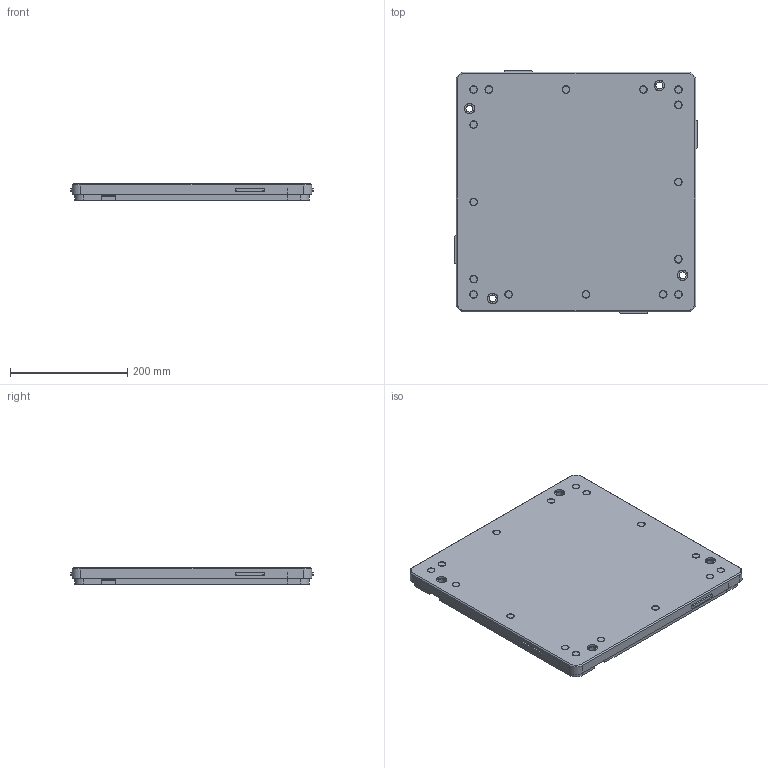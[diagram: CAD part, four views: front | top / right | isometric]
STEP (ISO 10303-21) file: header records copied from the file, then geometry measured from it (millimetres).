
FILE_DESCRIPTION(/* description */ (''),/* implementation_level */ '2;1');
FILE_NAME(/* name */ 'C:\Marketing\01_Versamove-SPU_STEP-Dateien-Homepage\VersamoveStandard\B400\STEP-Dateien\Werkstückträger_WT4045_400x400.stp',/* time_stamp */ '2016-12-21T08:37:49+01:00',/* author */ ('herbert.engels'),/* organization */ (''),/* preprocessor_version */ 'ST-DEVELOPER v15.6',/* originating_system */ 'Autodesk Inventor 2015',/* authorisation */ '');
FILE_SCHEMA (('CONFIG_CONTROL_DESIGN'));
Length unit declared in the file: millimetre
Products named in the file (1): Werkstückträger_WT4045_400x400
Bounding box: 414 x 414 x 28 mm (x, y, z)
Volume: 2359057.6 mm3; surface area: 495678.9 mm2
Topology: 1 solids, 1 shells, 394 faces, 988 edges, 644 vertices
Faces by surface type: plane 234, cylinder 116, cone 40, torus 4
Full cylindrical faces by diameter (mm): 4.5 x4, 6 x16, 8 x16, 9 x4, 12 x20, 18 x4, 22 x4, 23 x4, 27 x4, 28 x4
Entity records: 11445 total; most frequent: DIRECTION 1890, CARTESIAN_POINT 1811, ORIENTED_EDGE 1640, EDGE_CURVE 820, AXIS2_PLACEMENT_3D 675, VERTEX_POINT 596, EDGE_LOOP 578, LINE 540
